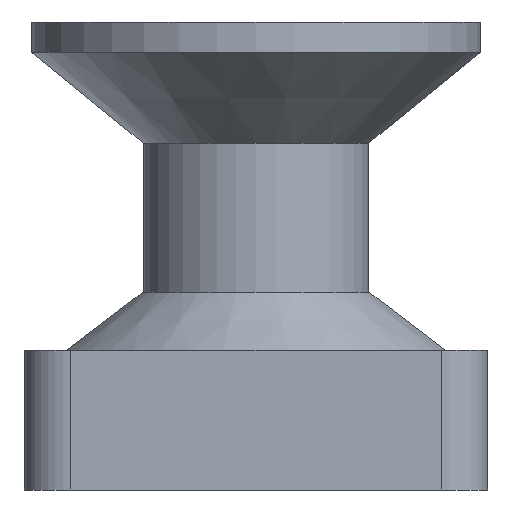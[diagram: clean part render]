
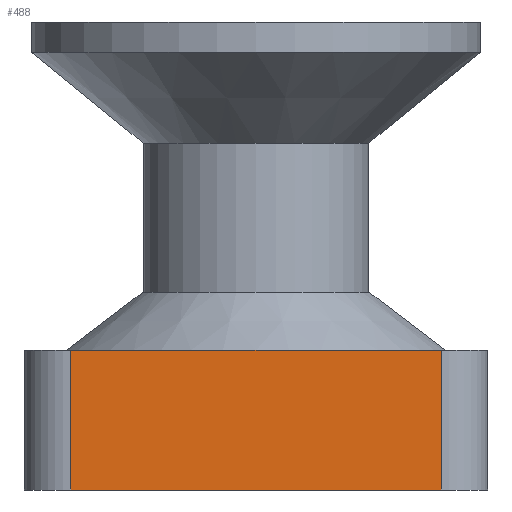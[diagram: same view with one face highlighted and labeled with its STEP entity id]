
A CAD part, left-side view. The second image highlights one B-rep face of the part: STEP entity #488.
In plain terms, the highlighted planar face has unit normal (-1, 0, 0).
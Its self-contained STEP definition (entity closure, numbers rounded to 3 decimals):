
#30=LINE('',#796,#72);
#38=LINE('',#820,#80);
#39=LINE('',#823,#81);
#40=LINE('',#824,#82);
#72=VECTOR('',#632,10.);
#80=VECTOR('',#660,10.);
#81=VECTOR('',#663,10.);
#82=VECTOR('',#664,10.);
#114=PLANE('',#567);
#152=FACE_OUTER_BOUND('',#188,.T.);
#188=EDGE_LOOP('',(#377,#378,#379,#380));
#246=VERTEX_POINT('',#793);
#247=VERTEX_POINT('',#795);
#253=VERTEX_POINT('',#818);
#254=VERTEX_POINT('',#822);
#287=EDGE_CURVE('',#246,#247,#30,.T.);
#299=EDGE_CURVE('',#246,#253,#38,.T.);
#300=EDGE_CURVE('',#253,#254,#39,.T.);
#301=EDGE_CURVE('',#247,#254,#40,.T.);
#377=ORIENTED_EDGE('',*,*,#300,.T.);
#378=ORIENTED_EDGE('',*,*,#301,.F.);
#379=ORIENTED_EDGE('',*,*,#287,.F.);
#380=ORIENTED_EDGE('',*,*,#299,.T.);
#488=ADVANCED_FACE('',(#152),#114,.T.);
#567=AXIS2_PLACEMENT_3D('',#821,#661,#662);
#632=DIRECTION('',(0.,1.,0.));
#660=DIRECTION('',(0.,0.,1.));
#661=DIRECTION('center_axis',(-1.,0.,0.));
#662=DIRECTION('ref_axis',(0.,0.,1.));
#663=DIRECTION('',(0.,1.,0.));
#664=DIRECTION('',(0.,0.,1.));
#793=CARTESIAN_POINT('',(-109.9,-7.95,0.));
#795=CARTESIAN_POINT('',(-109.9,7.95,0.));
#796=CARTESIAN_POINT('',(-109.9,-7.95,0.));
#818=CARTESIAN_POINT('',(-109.9,-7.95,6.));
#820=CARTESIAN_POINT('',(-109.9,-7.95,0.));
#821=CARTESIAN_POINT('Origin',(-109.9,-7.95,0.));
#822=CARTESIAN_POINT('',(-109.9,7.95,6.));
#823=CARTESIAN_POINT('',(-109.9,-7.95,6.));
#824=CARTESIAN_POINT('',(-109.9,7.95,0.));
